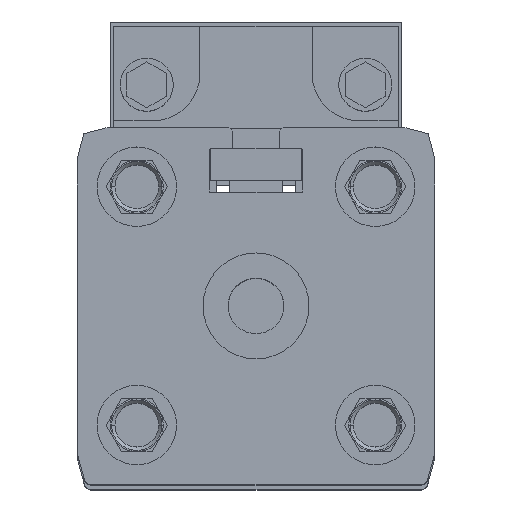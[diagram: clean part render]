
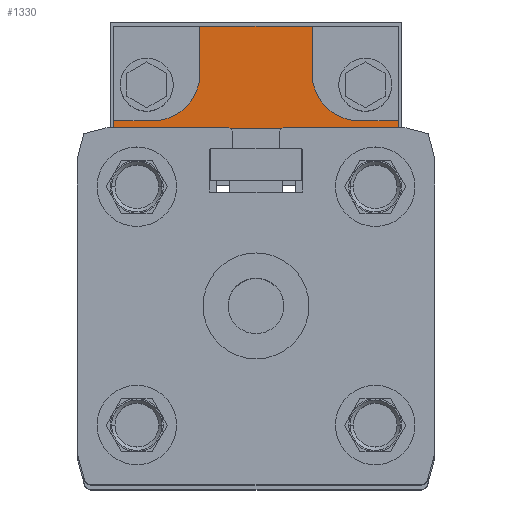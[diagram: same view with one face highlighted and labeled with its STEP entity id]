
A CAD part, top view. The second image highlights one B-rep face of the part: STEP entity #1330.
In plain terms, the highlighted planar face has unit normal (0, 0, 1) as drawn and (-1, 0, 0) by its records, which use the part's own axes.
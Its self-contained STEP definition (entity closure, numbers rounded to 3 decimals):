
#1314 = ORIENTED_EDGE ( 'NONE', *, *, #1315, .T. ) ;
#1315 = EDGE_CURVE ( 'NONE', #28311, #1316, #10645, .T. ) ;
#1316 = VERTEX_POINT ( 'NONE', #10709 ) ;
#1317 = ORIENTED_EDGE ( 'NONE', *, *, #1318, .T. ) ;
#1318 = EDGE_CURVE ( 'NONE', #1316, #1319, #10708, .T. ) ;
#1319 = VERTEX_POINT ( 'NONE', #10703 ) ;
#1320 = ORIENTED_EDGE ( 'NONE', *, *, #1321, .T. ) ;
#1321 = EDGE_CURVE ( 'NONE', #1319, #1344, #10702, .T. ) ;
#1330 = ADVANCED_FACE ( 'NONE', ( #10684 ), #10682, .F. ) ;
#1331 = EDGE_LOOP ( 'NONE', ( #1332, #1336, #1396, #1399, #1314, #1317, #1320, #1382, #1383, #1386 ) ) ;
#1332 = ORIENTED_EDGE ( 'NONE', *, *, #1333, .T. ) ;
#1333 = EDGE_CURVE ( 'NONE', #1334, #1335, #10741, .T. ) ;
#1334 = VERTEX_POINT ( 'NONE', #10737 ) ;
#1335 = VERTEX_POINT ( 'NONE', #10736 ) ;
#1336 = ORIENTED_EDGE ( 'NONE', *, *, #1395, .F. ) ;
#1337 = VERTEX_POINT ( 'NONE', #10735 ) ;
#1341 = VERTEX_POINT ( 'NONE', #10729 ) ;
#1343 = EDGE_CURVE ( 'NONE', #1341, #1344, #10728, .T. ) ;
#1344 = VERTEX_POINT ( 'NONE', #10724 ) ;
#1382 = ORIENTED_EDGE ( 'NONE', *, *, #1343, .F. ) ;
#1383 = ORIENTED_EDGE ( 'NONE', *, *, #1384, .T. ) ;
#1384 = EDGE_CURVE ( 'NONE', #1341, #1385, #10795, .T. ) ;
#1385 = VERTEX_POINT ( 'NONE', #10791 ) ;
#1386 = ORIENTED_EDGE ( 'NONE', *, *, #1387, .T. ) ;
#1387 = EDGE_CURVE ( 'NONE', #1385, #1334, #10789, .T. ) ;
#1395 = EDGE_CURVE ( 'NONE', #1337, #1335, #10834, .T. ) ;
#1396 = ORIENTED_EDGE ( 'NONE', *, *, #1397, .F. ) ;
#1397 = EDGE_CURVE ( 'NONE', #1398, #1337, #10830, .T. ) ;
#1398 = VERTEX_POINT ( 'NONE', #10826 ) ;
#1399 = ORIENTED_EDGE ( 'NONE', *, *, #1400, .F. ) ;
#1400 = EDGE_CURVE ( 'NONE', #28311, #1398, #10825, .T. ) ;
#10642 = DIRECTION ( 'NONE',  ( 0., 0., -1. ) ) ;
#10643 = VECTOR ( 'NONE', #10642, 1000. ) ;
#10644 = CARTESIAN_POINT ( 'NONE',  ( -34.5, -2.71, 18.75 ) ) ;
#10645 = LINE ( 'NONE', #10644, #10643 ) ;
#10678 = DIRECTION ( 'NONE',  ( 0., 0., -1. ) ) ;
#10679 = DIRECTION ( 'NONE',  ( 1., 0., 0. ) ) ;
#10680 = CARTESIAN_POINT ( 'NONE',  ( -34.5, 4.75, 22. ) ) ;
#10681 = AXIS2_PLACEMENT_3D ( 'NONE', #10680, #10679, #10678 ) ;
#10682 = PLANE ( 'NONE',  #10681 ) ;
#10684 = FACE_OUTER_BOUND ( 'NONE', #1331, .T. ) ;
#10699 = DIRECTION ( 'NONE',  ( 0., 1., 0. ) ) ;
#10700 = VECTOR ( 'NONE', #10699, 1000. ) ;
#10701 = CARTESIAN_POINT ( 'NONE',  ( -34.5, 4.42, 15.25 ) ) ;
#10702 = LINE ( 'NONE', #10701, #10700 ) ;
#10703 = CARTESIAN_POINT ( 'NONE',  ( -34.5, 0.79, 15.25 ) ) ;
#10704 = DIRECTION ( 'NONE',  ( 0., 0., -1. ) ) ;
#10705 = DIRECTION ( 'NONE',  ( 1., 0., 0. ) ) ;
#10706 = CARTESIAN_POINT ( 'NONE',  ( -34.5, 0.79, 18.75 ) ) ;
#10707 = AXIS2_PLACEMENT_3D ( 'NONE', #10706, #10705, #10704 ) ;
#10708 = CIRCLE ( 'NONE', #10707, 3.5 ) ;
#10709 = CARTESIAN_POINT ( 'NONE',  ( -34.5, -2.71, 18.75 ) ) ;
#10724 = CARTESIAN_POINT ( 'NONE',  ( -34.5, 4.42, 15.25 ) ) ;
#10725 = DIRECTION ( 'NONE',  ( 0., 0., 1. ) ) ;
#10726 = VECTOR ( 'NONE', #10725, 1000. ) ;
#10727 = CARTESIAN_POINT ( 'NONE',  ( -34.5, 4.42, 21.75 ) ) ;
#10728 = LINE ( 'NONE', #10727, #10726 ) ;
#10729 = CARTESIAN_POINT ( 'NONE',  ( -34.5, 4.42, 6.75 ) ) ;
#10735 = CARTESIAN_POINT ( 'NONE',  ( -34.5, -4.42, 0.25 ) ) ;
#10736 = CARTESIAN_POINT ( 'NONE',  ( -34.5, -2.71, 0.25 ) ) ;
#10737 = CARTESIAN_POINT ( 'NONE',  ( -34.5, -2.71, 3.25 ) ) ;
#10738 = DIRECTION ( 'NONE',  ( 0., 0., -1. ) ) ;
#10739 = VECTOR ( 'NONE', #10738, 1000. ) ;
#10740 = CARTESIAN_POINT ( 'NONE',  ( -34.5, -2.71, 3.25 ) ) ;
#10741 = LINE ( 'NONE', #10740, #10739 ) ;
#10785 = DIRECTION ( 'NONE',  ( 0., 0., 1. ) ) ;
#10786 = DIRECTION ( 'NONE',  ( 1., 0., 0. ) ) ;
#10787 = CARTESIAN_POINT ( 'NONE',  ( -34.5, 0.79, 3.25 ) ) ;
#10788 = AXIS2_PLACEMENT_3D ( 'NONE', #10787, #10786, #10785 ) ;
#10789 = CIRCLE ( 'NONE', #10788, 3.5 ) ;
#10791 = CARTESIAN_POINT ( 'NONE',  ( -34.5, 0.79, 6.75 ) ) ;
#10792 = DIRECTION ( 'NONE',  ( 0., -1., 0. ) ) ;
#10793 = VECTOR ( 'NONE', #10792, 1000. ) ;
#10794 = CARTESIAN_POINT ( 'NONE',  ( -34.5, 4.42, 6.75 ) ) ;
#10795 = LINE ( 'NONE', #10794, #10793 ) ;
#10822 = DIRECTION ( 'NONE',  ( 0., -1., 0. ) ) ;
#10823 = VECTOR ( 'NONE', #10822, 1000. ) ;
#10824 = CARTESIAN_POINT ( 'NONE',  ( -34.5, 4.42, 21.75 ) ) ;
#10825 = LINE ( 'NONE', #10824, #10823 ) ;
#10826 = CARTESIAN_POINT ( 'NONE',  ( -34.5, -4.42, 21.75 ) ) ;
#10827 = DIRECTION ( 'NONE',  ( 0., 0., -1. ) ) ;
#10828 = VECTOR ( 'NONE', #10827, 1000. ) ;
#10829 = CARTESIAN_POINT ( 'NONE',  ( -34.5, -4.42, 21.75 ) ) ;
#10830 = LINE ( 'NONE', #10829, #10828 ) ;
#10831 = DIRECTION ( 'NONE',  ( 0., 1., 0. ) ) ;
#10832 = VECTOR ( 'NONE', #10831, 1000. ) ;
#10833 = CARTESIAN_POINT ( 'NONE',  ( -34.5, 4.42, 0.25 ) ) ;
#10834 = LINE ( 'NONE', #10833, #10832 ) ;
#25429 = CARTESIAN_POINT ( 'NONE',  ( -34.5, -2.71, 21.75 ) ) ;
#28311 = VERTEX_POINT ( 'NONE', #25429 ) ;
